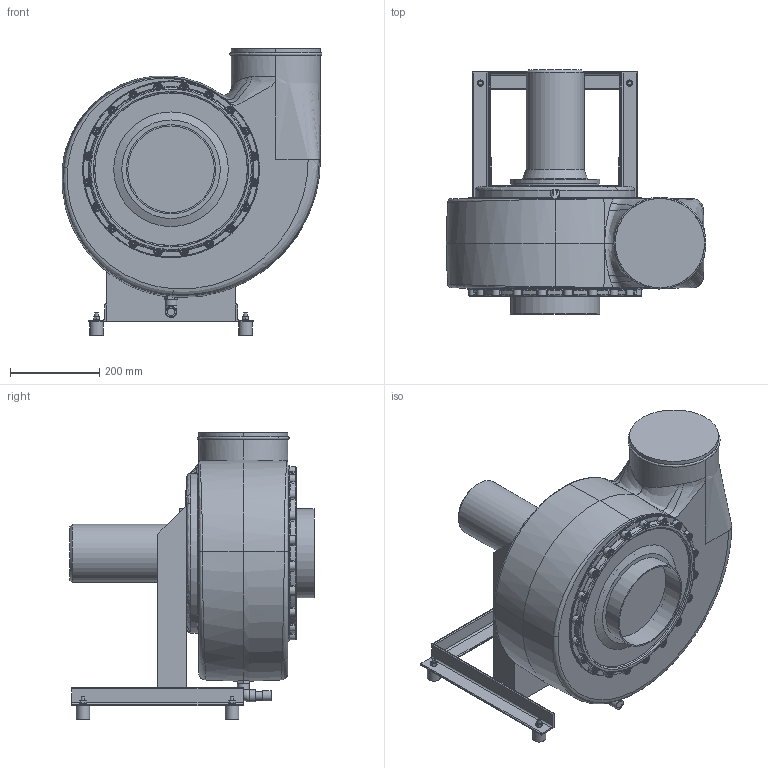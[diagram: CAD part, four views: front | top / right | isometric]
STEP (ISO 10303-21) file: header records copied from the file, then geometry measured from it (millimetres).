
FILE_DESCRIPTION( ( 'Unknown' ), '1' );
FILE_NAME( 'K:/HOME/HLT_CAD/Z/HF/3D/Zusammenstellung/HFR/HFR 15_17/HFR...-15D/DS_1/HFR_200-15D/GR360/HFR_200-15D_DS1_GR_360_0802.stp', 'Unknown', ( 'Musch' ), ( 'Hürner-Funken' ), 'PSStep 14.0', 'Unknown', ' ' );
FILE_SCHEMA( ( 'AUTOMOTIVE_DESIGN { 1 0 10303 214 1 1 1 1 }' ) );
Length unit declared in the file: millimetre
Products named in the file (1): BG 80
Bounding box: 582.04 x 547 x 642 mm (x, y, z)
Volume: 56784526.6 mm3; surface area: 1670804.5 mm2
Topology: 1 solids, 9 shells, 1160 faces, 2821 edges, 1725 vertices
Faces by surface type: plane 370, bspline 325, cylinder 296, torus 100, cone 63, revolution 6
Full cylindrical faces by diameter (mm): 4.917 x21, 6.647 x12, 8 x8, 9 x20, 10 x4, 11 x12, 12 x1, 13 x9, 14 x20, 16 x2, 17 x1, 19 x1, 20 x1, 20.955 x1, 23 x1, 26.5 x2, 30 x4, 72 x1, 74 x1, 82 x1, 90 x1, 130 x1, 131 x1, 140 x1, 145 x1, 194 x1, 196 x1, 200 x3, 358 x1, 392 x1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
Entity records: 73464 total; most frequent: CARTESIAN_POINT 41193, ORIENTED_EDGE 4982, DIRECTION 4129, EDGE_CURVE 2491, AXIS2_PLACEMENT_3D 1825, VERTEX_POINT 1614, EDGE_LOOP 1492, FACE_OUTER_BOUND 1314
